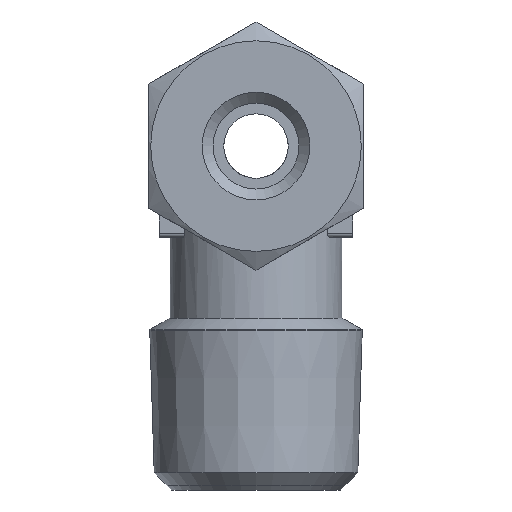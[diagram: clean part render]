
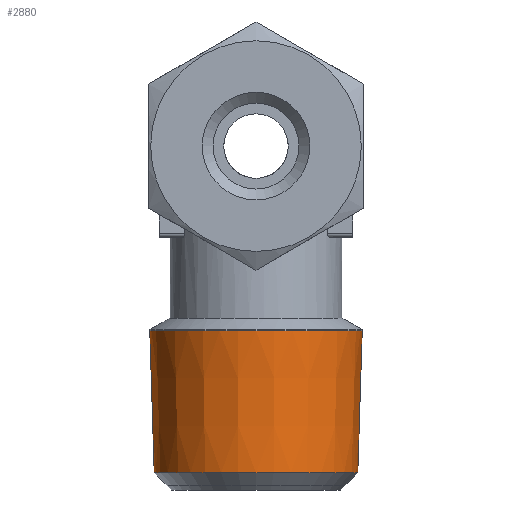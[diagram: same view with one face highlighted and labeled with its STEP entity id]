
A CAD part, left-side view. The second image highlights one B-rep face of the part: STEP entity #2880.
In plain terms, the highlighted conical face has half-angle 1.79 degrees and reference radius 4.942 mm.
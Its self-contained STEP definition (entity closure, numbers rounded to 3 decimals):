
#2880=ADVANCED_FACE('', (#2890,#2900), #2910, .T.);
#10450=AXIS2_PLACEMENT_3D('Ax2Pl3d', #10460, #10470, #10480);
#10530=AXIS2_PLACEMENT_3D('Ax2Pl3d', #10540, #10550, #10560);
#10570=AXIS2_PLACEMENT_3D('Ax2Pl3d', #10580, #10590, #10600);
#10460=CARTESIAN_POINT('HicPkt', (28.036,11.922,11.783));
#52750=CARTESIAN_POINT('', (28.036,7.186,11.783));
#10540=CARTESIAN_POINT('HicPkt', (28.036,11.922,18.383));
#10580=CARTESIAN_POINT('HicPkt', (28.036,11.922,18.383));
#52770=CARTESIAN_POINT('', (28.036,6.98,18.383));
#54030=CIRCLE('Circle', #10450, 4.736);
#54050=CIRCLE('Circle', #10570, 4.942);
#2910=CONICAL_SURFACE('Kegel', #10530, 4.942, 
0.031);
#10470=DIRECTION('Axis', (0.,0.,-1.));
#10480=DIRECTION('RefDirection', (-1.,-0.,0.));
#10550=DIRECTION('Axis', (0.,0.,1.));
#10560=DIRECTION('RefDirection', (1.,0.,-0.));
#10590=DIRECTION('Axis', (0.,0.,-1.));
#10600=DIRECTION('RefDirection', (-1.,-0.,0.));
#64550=EDGE_CURVE('', #64560, #64560, #54030, .T.);
#64590=EDGE_CURVE('', #64600, #64600, #54050, .T.);
#69930=EDGE_LOOP('Edge_loop', (#69940));
#69950=EDGE_LOOP('Edge_loop', (#69960));
#2900=FACE_BOUND('', #69950, .T.);
#2890=FACE_OUTER_BOUND('Face_outer_bound', #69930, .T.);
#69940=ORIENTED_EDGE('', *, *, #64550, .F.);
#69960=ORIENTED_EDGE('', *, *, #64590, .T.);
#64560=VERTEX_POINT('', #52750);
#64600=VERTEX_POINT('', #52770);
